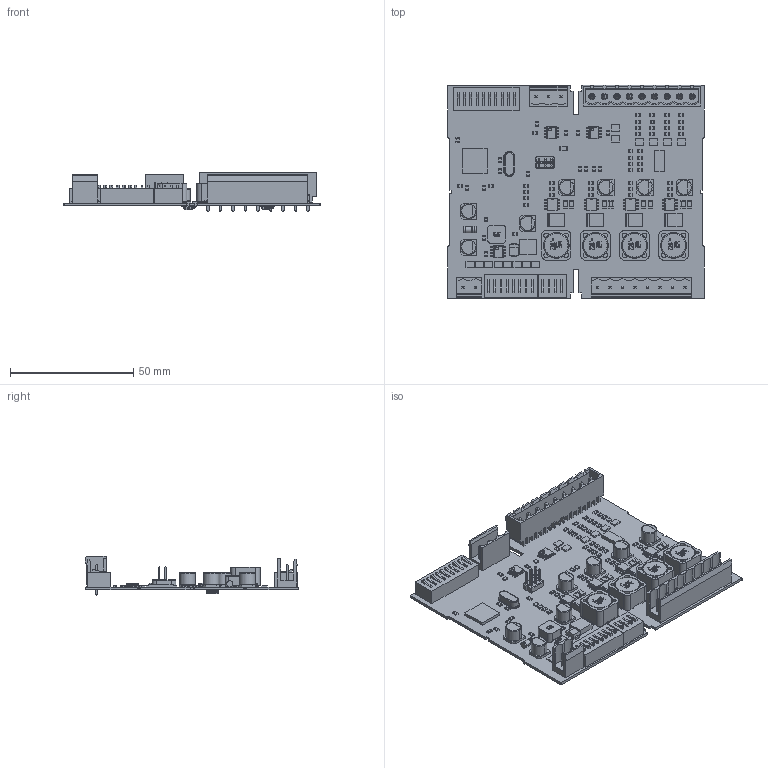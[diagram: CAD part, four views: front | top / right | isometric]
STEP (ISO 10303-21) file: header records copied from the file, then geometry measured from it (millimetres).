
FILE_DESCRIPTION(('Open CASCADE Model'),'2;1');
FILE_NAME('Open CASCADE Shape Model','2016-10-28T19:20:53',('Author'),( 'Open CASCADE'),'Open CASCADE STEP processor 6.5','Open CASCADE 6.5' ,'Unknown');
FILE_SCHEMA(('AUTOMOTIVE_DESIGN { 1 0 10303 214 1 1 1 1 }'));
Length unit declared in the file: millimetre
Products named in the file (172): PCB; BoardATOMega_LED_C; U2ATOMega_LED_C; m08a; M08A_ASM_82_ASM; BODY_M08A_35; LEAD_M08A_57; TIEBAR_M08A_2_ASM; MANIFOLD_SOLID_BREP_2784; MANIFOLD_SOLID_BREP_2935; MANIFOLD_SOLID_BREP_3086; MANIFOLD_SOLID_BREP_3237; D10ATOMega_LED_C; 720026896; Extruded; D9ATOMega_LED_C; D8ATOMega_LED_C; D6ATOMega_LED_C; D5ATOMega_LED_C; D4ATOMega_LED_C; D3ATOMega_LED_C; D2ATOMega_LED_C; R42ATOMega_LED_C; 0805-DEFAULT; R38ATOMega_LED_C; R35ATOMega_LED_C; R26ATOMega_LED_C; U11ATOMega_LED_C; U12ATOMega_LED_C; R21ATOMega_LED_C; R18ATOMega_LED_C; R20ATOMega_LED_C; R17ATOMega_LED_C; D14ATOMega_LED_C; D13ATOMega_LED_C; D20ATOMega_LED_C; D17ATOMega_LED_C; D19ATOMega_LED_C; D16ATOMega_LED_C; D7ATOMega_LED_C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
Assembly tree (281 placements, depth 6):
  PCB
    BoardATOMega_LED_C
    U2ATOMega_LED_C
      m08a
        M08A_ASM_82_ASM
          BODY_M08A_35
          LEAD_M08A_57  x8
          TIEBAR_M08A_2_ASM
            MANIFOLD_SOLID_BREP_2784
            MANIFOLD_SOLID_BREP_2935
            MANIFOLD_SOLID_BREP_3086
            MANIFOLD_SOLID_BREP_3237
    D10ATOMega_LED_C
      720026896
        Extruded
    D9ATOMega_LED_C
      720026896
        Extruded
    D8ATOMega_LED_C
      720026896
        Extruded
    D6ATOMega_LED_C
      720026896
        Extruded
    D5ATOMega_LED_C
      720026896
        Extruded
    D4ATOMega_LED_C
      720026896
        Extruded
    D3ATOMega_LED_C
      720026896
        Extruded
    D2ATOMega_LED_C
      720026896
        Extruded
    R42ATOMega_LED_C
      0805-DEFAULT
    R38ATOMega_LED_C
      0805-DEFAULT
    R35ATOMega_LED_C
      0805-DEFAULT
    R26ATOMega_LED_C
      0805-DEFAULT
    U11ATOMega_LED_C
      m08a
        M08A_ASM_82_ASM
          BODY_M08A_35
          LEAD_M08A_57  x8
          TIEBAR_M08A_2_ASM
            MANIFOLD_SOLID_BREP_2784
            MANIFOLD_SOLID_BREP_2935
            MANIFOLD_SOLID_BREP_3086
            MANIFOLD_SOLID_BREP_3237
    U12ATOMega_LED_C
      m08a
        M08A_ASM_82_ASM
          BODY_M08A_35
          LEAD_M08A_57  x8
          TIEBAR_M08A_2_ASM
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Bounding box: 103.92 x 86.65 x 16.2 mm (x, y, z)
Volume: 23713.7 mm3; surface area: 40654.3 mm2
Topology: 210 solids, 210 shells, 5111 faces, 12946 edges, 8455 vertices
Faces by surface type: plane 3951, cylinder 971, bspline 56, sphere 50, extrusion 37, torus 24, cone 22
Full cylindrical faces by diameter (mm): 0.5 x4, 0.9 x50, 1.4 x17, 1.5 x5, 5 x1, 5.75 x4, 10 x8
Entity records: 136448 total; most frequent: CARTESIAN_POINT 36442, DIRECTION 15976, VECTOR 10263, LINE 10244, ORIENTED_EDGE 9120, PCURVE 9120, DEFINITIONAL_REPRESENTATION 9120, EDGE_CURVE 4560
